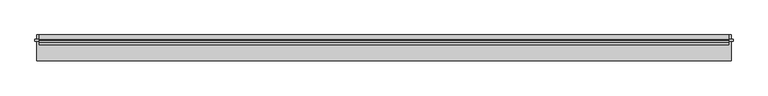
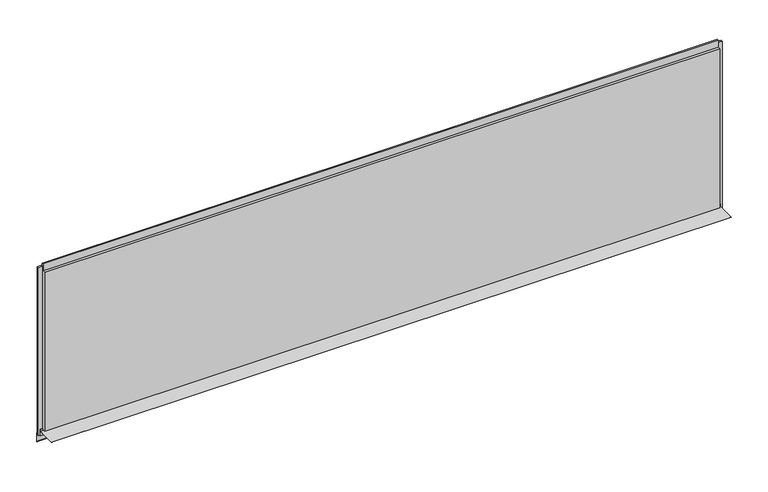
"""IFC4 building model written with IfcOpenShell, lengths in millimetres: plate geometry, Trimo_Qbiss Screen_Normal Panel-HORIZONTAL : HR - B."""

from ifc_helpers import new_model, si_unit, frame, origin, place, context, project, spatial, polyline, outline, extrude, source, transform, mapped, element, save


def plate_0a25c81b(model_context):
    return source(origin(), model_context, "Body", "SweptSolid", [
        extrude(outline(polyline([(66.7, 14.0835797), (67.5, 14.0835797), (67.5, -23.0), (100.0, -25.8433816), (100.0, -76.0), (87.1509533, -63.1509533), (87.7166388, -62.5852679), (99.2, -74.0686292), (99.2, -26.5764465), (66.7, -23.7330649), (66.7, 1.0), (-32.5, 1.0), (-32.5, 1.8), (66.7, 1.8), (66.7, 14.0835797)])), frame((-1781.25, 0.0, 0.0), z_axis=(1.0, 0.0, 0.0), x_axis=(0.0, 1.0, 0.0)), (0.0, 0.0, 1.0), 3562.5),
        extrude(outline(polyline([(-1771.75, 76.5978162), (-1771.75, 67.8978162), (-1790.75, 67.8978162), (-1790.75, 76.5978162), (-1771.75, 76.5978162)])), frame((0.0, 0.0, -20.0), z_axis=(0.0, 0.0, 1.0), x_axis=(1.0, 0.0, 0.0)), (0.0, 0.0, 1.0), 931.5),
        extrude(outline(polyline([(1771.75, 67.8978162), (1771.75, 76.5978162), (1790.75, 76.5978162), (1790.75, 67.8978162), (1771.75, 67.8978162)])), frame((0.0, 0.0, -20.0), z_axis=(0.0, 0.0, 1.0), x_axis=(1.0, 0.0, 0.0)), (0.0, 0.0, 1.0), 931.5),
        extrude(outline(polyline([(1768.75, 76.0), (1768.75, 71.0), (-1768.75, 71.0), (-1768.75, 76.0), (1768.75, 76.0)])), frame((0.0, 0.0, 890.5), z_axis=(0.0, 0.0, 1.0), x_axis=(1.0, 0.0, 0.0)), (0.0, 0.0, 1.0), 21.0),
        extrude(outline(polyline([(71.0, 889.5), (100.0, 889.5), (100.0, 0.0), (72.0, 0.0), (72.0, 15.5), (62.0, 15.5), (62.0, 7.0), (50.0, 7.0), (50.0, 889.5), (63.0, 889.5), (63.0, 927.0), (71.0, 927.0), (71.0, 889.5)])), frame((-1768.75, 0.0, 0.0), z_axis=(1.0, 0.0, 0.0), x_axis=(0.0, 1.0, 0.0)), (0.0, 0.0, 1.0), 3537.5),
    ])


if __name__ == "__main__":
    model = new_model("IFC4")
    model_context = context("Model", 3, world=origin())
    ifc_project = project(units=[si_unit("LENGTHUNIT", "METRE", prefix="MILLI")], contexts=[model_context])
    site = spatial("IfcSite", under=ifc_project)
    building = spatial("IfcBuilding", under=site)
    placement = place(None, origin())
    plate_shape = plate_0a25c81b(model_context)
    element("IfcPlate", 1, ObjectType="Trimo_Qbiss Screen_Normal Panel-HORIZONTAL : HR - B", at=placement, inside=building, context=model_context, shape_type="MappedRepresentation", body=[
        mapped(plate_shape, transform((0.0, 0.0, 0.0), x_axis=(1.0, 0.0, 0.0), y_axis=(0.0, 1.0, 0.0), z_axis=(0.0, 0.0, 1.0))),
    ])
    save(model, "model.ifc")
